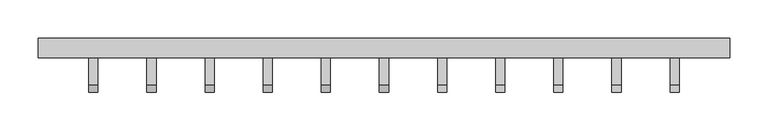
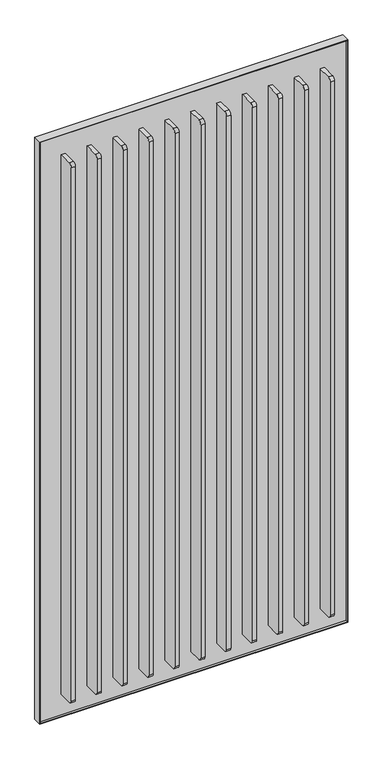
"""IFC4 building model written with IfcOpenShell, lengths in millimetres: proxy geometry, Frame_Cascade 2.3dm."""

import ifcopenshell
import ifcopenshell.guid

model = None  # the IFC model being written
_history = None  # IfcOwnerHistory: only IFC2X3 demands one
_inside = {}  # id of a spatial element -> (the spatial element, [elements in it])
_under = {}  # id of a project, library or spatial element -> (it, [spatial elements below it])
_declared = {}  # id of a project -> (the project, [libraries it declares])
_typed = {}  # id of a type object -> (the type object, [elements of that type])
_made_of = {}  # id of a material, layer set ... -> (it, [elements and type objects made of it])


def new_model(schema):
    """Start an empty IFC model of exactly this schema.

    Asked for "IFC4X3", IfcOpenShell would pick the latest addendum, in which some entities
    have other attributes; the version numbers below select the first issue.
    IFC2X3 requires an IfcOwnerHistory on every rooted entity: one is made here for all.
    """
    global model, _history
    if schema == "IFC4X3":
        model = ifcopenshell.file(schema_version=(4, 3, 0, 0))
    else:
        model = ifcopenshell.file(schema=schema)
    _inside.clear()
    _under.clear()
    _declared.clear()
    _typed.clear()
    _made_of.clear()
    _history = None
    if model.schema == "IFC2X3":
        org = make("IfcOrganization", Name="unknown")
        user = make(
            "IfcPersonAndOrganization",
            ThePerson=make("IfcPerson", FamilyName="unknown"),
            TheOrganization=org,
        )
        app = make(
            "IfcApplication",
            ApplicationDeveloper=org,
            Version="unknown",
            ApplicationFullName="unknown",
            ApplicationIdentifier="unknown",
        )
        _history = make(
            "IfcOwnerHistory",
            OwningUser=user,
            OwningApplication=app,
            ChangeAction="ADDED",
            CreationDate=0,
        )
    return model


def make(cls, **values):
    """One entity of the class cls with the attributes given. An attribute that is None is left unset."""
    return model.create_entity(
        cls, **{name: value for name, value in values.items() if value is not None}
    )


def rooted(cls, **values):
    """An entity with a GlobalId (a new one), such as an element, a storey or a relation."""
    return make(cls, GlobalId=ifcopenshell.guid.new(), OwnerHistory=_history, **values)


def si_unit(unit_type, name, prefix=None):
    """IfcSIUnit, for example si_unit("LENGTHUNIT", "METRE", prefix="MILLI")."""
    return make("IfcSIUnit", UnitType=unit_type, Prefix=prefix, Name=name)


def assignment(units):
    """IfcUnitAssignment: the units of a project."""
    return None if units is None else make("IfcUnitAssignment", Units=units)


def point(xyz):
    """IfcCartesianPoint."""
    return None if xyz is None else make("IfcCartesianPoint", Coordinates=xyz)


def direction(xyz):
    """IfcDirection."""
    return None if xyz is None else make("IfcDirection", DirectionRatios=xyz)


def frame(location, z_axis=None, x_axis=None):
    """IfcAxis2Placement3D, a coordinate frame: its origin and axes. An axis left out is left unset."""
    return make(
        "IfcAxis2Placement3D",
        Location=point(location),
        Axis=direction(z_axis),
        RefDirection=direction(x_axis),
    )


def frame_2d(location, x_axis=None):
    """IfcAxis2Placement2D, a coordinate frame in the plane: its origin and x axis."""
    return make(
        "IfcAxis2Placement2D", Location=point(location), RefDirection=direction(x_axis)
    )


def origin():
    """The frame at (0, 0, 0) with its axes left unset."""
    return frame((0.0, 0.0, 0.0))


def place(relative_to, where):
    """IfcLocalPlacement: puts the frame where relative to a parent placement (None: the world)."""
    return make(
        "IfcLocalPlacement", PlacementRelTo=relative_to, RelativePlacement=where
    )


def context(
    kind, dimensions, precision=None, world=None, true_north=None, identifier=None
):
    """IfcGeometricRepresentationContext, for example the 3D "Model" context."""
    return make(
        "IfcGeometricRepresentationContext",
        ContextIdentifier=identifier,
        ContextType=kind,
        CoordinateSpaceDimension=dimensions,
        Precision=precision,
        WorldCoordinateSystem=world,
        TrueNorth=true_north,
    )


def project(units=None, contexts=None):
    """IfcProject with its units and contexts."""
    return rooted(
        "IfcProject",
        Name="project",
        RepresentationContexts=contexts,
        UnitsInContext=assignment(units),
    )


def spatial(cls, under=None, at=None, **own):
    """A site, building, storey or space (cls), placed at a placement, below another one or the project."""
    s = rooted(cls, ObjectPlacement=at, **own)
    if under is not None:
        _under.setdefault(under.id(), (under, []))[1].append(s)
    return s


def polyline(points):
    """IfcPolyline through the points."""
    return make("IfcPolyline", Points=[point(p) for p in points])


def circle_curve(where, radius):
    """IfcCircle in the frame where."""
    return make("IfcCircle", Position=where, Radius=radius)


def trimmed(basis, trim1, trim2, sense, master):
    """IfcTrimmedCurve: the piece of a basis curve between two trims."""
    return make(
        "IfcTrimmedCurve",
        BasisCurve=basis,
        Trim1=trim1,
        Trim2=trim2,
        SenseAgreement=sense,
        MasterRepresentation=master,
    )


def segment(curve, same_sense, transition):
    """IfcCompositeCurveSegment."""
    return make(
        "IfcCompositeCurveSegment",
        Transition=transition,
        SameSense=same_sense,
        ParentCurve=curve,
    )


def composite_curve(segments, self_intersect=None):
    """IfcCompositeCurve: segments joined end to end."""
    return make("IfcCompositeCurve", Segments=segments, SelfIntersect=self_intersect)


def outline(outer, holes=None, kind="AREA"):
    """IfcArbitraryClosedProfileDef: a profile drawn as a closed curve; with holes, ...WithVoids."""
    if holes is None:
        return make("IfcArbitraryClosedProfileDef", ProfileType=kind, OuterCurve=outer)
    return make(
        "IfcArbitraryProfileDefWithVoids",
        ProfileType=kind,
        OuterCurve=outer,
        InnerCurves=holes,
    )


def extrude(swept, where, along, depth):
    """IfcExtrudedAreaSolid: the profile swept, set in the frame where, extruded along a direction by depth."""
    return make(
        "IfcExtrudedAreaSolid",
        SweptArea=swept,
        Position=where,
        ExtrudedDirection=direction(along),
        Depth=depth,
    )


def shape(context_of_items, identifier, shape_type, items):
    """IfcShapeRepresentation: the items that make up one representation, for example the "Body"."""
    return make(
        "IfcShapeRepresentation",
        ContextOfItems=context_of_items,
        RepresentationIdentifier=identifier,
        RepresentationType=shape_type,
        Items=items,
    )


def source(mapping_origin, context_of_items, identifier, shape_type, items):
    """IfcRepresentationMap: a shape defined once, which mapped items show again and again."""
    return make(
        "IfcRepresentationMap",
        MappingOrigin=mapping_origin,
        MappedRepresentation=shape(context_of_items, identifier, shape_type, items),
    )


def transform(
    local_origin,
    x_axis=None,
    y_axis=None,
    z_axis=None,
    scale=None,
    scale2=None,
    scale3=None,
    uniform=True,
):
    """IfcCartesianTransformationOperator3D, or its non-uniform kind. x_axis, y_axis, z_axis: its Axis1, 2, 3."""
    if uniform:
        return make(
            "IfcCartesianTransformationOperator3D",
            Axis1=direction(x_axis),
            Axis2=direction(y_axis),
            LocalOrigin=point(local_origin),
            Scale=scale,
            Axis3=direction(z_axis),
        )
    return make(
        "IfcCartesianTransformationOperator3DnonUniform",
        Axis1=direction(x_axis),
        Axis2=direction(y_axis),
        LocalOrigin=point(local_origin),
        Scale=scale,
        Axis3=direction(z_axis),
        Scale2=scale2,
        Scale3=scale3,
    )


def mapped(mapping_source, mapping_target):
    """IfcMappedItem: shows the shape of a source again, moved by a transform."""
    return make(
        "IfcMappedItem", MappingSource=mapping_source, MappingTarget=mapping_target
    )


def made_of(thing, what):
    """Note that an element or type object is made of a material, layer set ...; save() writes the relation."""
    if what is not None:
        _made_of.setdefault(what.id(), (what, []))[1].append(thing)
    return thing


def element(
    cls,
    number,
    at=None,
    inside=None,
    cuts=None,
    type_object=None,
    material=None,
    context=None,
    identifier="Body",
    shape_type=None,
    held_by="IfcProductDefinitionShape",
    body=None,
    shapes=None,
    **own,
):
    """One element of the class cls, such as IfcWall. Its Tag is "e" and its number.

    at: its placement. inside: the storey or other place that contains it. cuts: it is an
    opening in that element (IfcRelVoidsElement). A single representation is given by context,
    identifier, shape_type and body (its items); several are given by shapes. held_by: the class
    of the entity that holds the representations. save() writes the other relations.
    """
    e = rooted(cls, Tag="e%d" % number, ObjectPlacement=at, **own)
    if body is not None:
        shapes = [shape(context, identifier, shape_type, body)]
    if shapes is not None:
        e.Representation = make(held_by, Representations=shapes)
    if inside is not None:
        _inside.setdefault(inside.id(), (inside, []))[1].append(e)
    if cuts is not None:
        rooted(
            "IfcRelVoidsElement", RelatingBuildingElement=cuts, RelatedOpeningElement=e
        )
    if type_object is not None:
        _typed.setdefault(type_object.id(), (type_object, []))[1].append(e)
    return made_of(e, material)


def aggregate(whole, parts):
    """IfcRelAggregates: a whole, such as a stair, and the parts it consists of."""
    return rooted("IfcRelAggregates", RelatingObject=whole, RelatedObjects=parts)


def save(model, path):
    """Write the relations noted so far, then the file.

    IfcRelAggregates (storeys below a building ...), IfcRelContainedInSpatialStructure (elements
    in a storey), IfcRelDefinesByType, IfcRelAssociatesMaterial and IfcRelDeclares: one each for
    every whole, place, type object, material and project.
    """
    for whole, parts in _under.values():
        aggregate(whole, parts)
    for where, things in _inside.values():
        rooted(
            "IfcRelContainedInSpatialStructure",
            RelatedElements=things,
            RelatingStructure=where,
        )
    for kind, things in _typed.values():
        rooted("IfcRelDefinesByType", RelatedObjects=things, RelatingType=kind)
    for what, things in _made_of.values():
        rooted("IfcRelAssociatesMaterial", RelatedObjects=things, RelatingMaterial=what)
    for by, libraries in _declared.values():
        rooted("IfcRelDeclares", RelatingContext=by, RelatedDefinitions=libraries)
    model.write(path)


def generic_models_e5c5eccd(model_context):
    return source(origin(), model_context, "Body", "SweptSolid", [
        extrude(outline(polyline([(8883.2241229, 114.2568681), (7983.2241229, 114.2568681), (7983.2241229, 126.2568681), (8883.2241229, 126.2568681), (8883.2241229, 114.2568681)])), frame((0.0, 0.0, 28.040642), z_axis=(0.0, 0.0, 1.0), x_axis=(1.0, 0.0, 0.0)), (0.0, 0.0, 1.0), 1800.0),
        extrude(outline(polyline([(26.040642, 7981.2241229), (26.040642, 8885.2241229), (1830.040642, 8885.2241229), (1830.040642, 7981.2241229), (26.040642, 7981.2241229)]), holes=[polyline([(28.040642, 7983.2241229), (1828.040642, 7983.2241229), (1828.040642, 8883.2241229), (28.040642, 8883.2241229), (28.040642, 7983.2241229)])]), frame((0.0, 107.5568681, 0.0), z_axis=(0.0, 1.0, 0.0), x_axis=(0.0, 0.0, 1.0)), (0.0, 0.0, 1.0), 25.4),
        extrude(outline(composite_curve([segment(polyline([(114.2568681, 1764.040642), (114.2568681, 92.040642), (72.2568681, 92.040642)]), True, "CONTINUOUS"), segment(trimmed(circle_curve(frame_2d((72.2568681, 102.040642)), 10.0), [point((72.2568681, 92.040642))], [point((62.2568681, 102.040642))], False, "CARTESIAN"), True, "CONTINUOUS"), segment(polyline([(62.2568681, 102.040642), (62.2568681, 1754.040642)]), True, "CONTINUOUS"), segment(trimmed(circle_curve(frame_2d((72.2568681, 1754.040642)), 10.0), [point((62.2568681, 1754.040642))], [point((72.2568681, 1764.040642))], False, "CARTESIAN"), True, "CONTINUOUS"), segment(polyline([(72.2568681, 1764.040642), (114.2568681, 1764.040642)]), True, "CONTINUOUS")], self_intersect=False)), frame((8731.2241229, 0.0, 0.0), z_axis=(1.0, 0.0, 0.0), x_axis=(0.0, 1.0, 0.0)), (0.0, 0.0, 1.0), 12.0),
        extrude(outline(composite_curve([segment(polyline([(114.2568681, 1764.040642), (114.2568681, 92.040642), (72.2568681, 92.040642)]), True, "CONTINUOUS"), segment(trimmed(circle_curve(frame_2d((72.2568681, 102.040642)), 10.0), [point((72.2568681, 92.040642))], [point((62.2568681, 102.040642))], False, "CARTESIAN"), True, "CONTINUOUS"), segment(polyline([(62.2568681, 102.040642), (62.2568681, 1754.040642)]), True, "CONTINUOUS"), segment(trimmed(circle_curve(frame_2d((72.2568681, 1754.040642)), 10.0), [point((62.2568681, 1754.040642))], [point((72.2568681, 1764.040642))], False, "CARTESIAN"), True, "CONTINUOUS"), segment(polyline([(72.2568681, 1764.040642), (114.2568681, 1764.040642)]), True, "CONTINUOUS")], self_intersect=False)), frame((8579.2241229, 0.0, 0.0), z_axis=(1.0, 0.0, 0.0), x_axis=(0.0, 1.0, 0.0)), (0.0, 0.0, 1.0), 12.0),
        extrude(outline(composite_curve([segment(polyline([(114.2568681, 92.040642), (72.2568681, 92.040642)]), True, "CONTINUOUS"), segment(trimmed(circle_curve(frame_2d((72.2568681, 102.040642)), 10.0), [point((72.2568681, 92.040642))], [point((62.2568681, 102.040642))], False, "CARTESIAN"), True, "CONTINUOUS"), segment(polyline([(62.2568681, 102.040642), (62.2568681, 1754.040642)]), True, "CONTINUOUS"), segment(trimmed(circle_curve(frame_2d((72.2568681, 1754.040642)), 10.0), [point((62.2568681, 1754.040642))], [point((72.2568681, 1764.040642))], False, "CARTESIAN"), True, "CONTINUOUS"), segment(polyline([(72.2568681, 1764.040642), (114.2568681, 1764.040642), (114.2568681, 92.040642)]), True, "CONTINUOUS")], self_intersect=False)), frame((8427.2241229, 0.0, 0.0), z_axis=(1.0, 0.0, 0.0), x_axis=(0.0, 1.0, 0.0)), (0.0, 0.0, 1.0), 12.0),
        extrude(outline(composite_curve([segment(polyline([(114.2568681, 1764.040642), (114.2568681, 92.040642), (72.2568681, 92.040642)]), True, "CONTINUOUS"), segment(trimmed(circle_curve(frame_2d((72.2568681, 102.040642)), 10.0), [point((72.2568681, 92.040642))], [point((62.2568681, 102.040642))], False, "CARTESIAN"), True, "CONTINUOUS"), segment(polyline([(62.2568681, 102.040642), (62.2568681, 1754.040642)]), True, "CONTINUOUS"), segment(trimmed(circle_curve(frame_2d((72.2568681, 1754.040642)), 10.0), [point((62.2568681, 1754.040642))], [point((72.2568681, 1764.040642))], False, "CARTESIAN"), True, "CONTINUOUS"), segment(polyline([(72.2568681, 1764.040642), (114.2568681, 1764.040642)]), True, "CONTINUOUS")], self_intersect=False)), frame((8655.2241229, 0.0, 0.0), z_axis=(1.0, 0.0, 0.0), x_axis=(0.0, 1.0, 0.0)), (0.0, 0.0, 1.0), 12.0),
        extrude(outline(composite_curve([segment(polyline([(114.2568681, 1764.040642), (114.2568681, 92.040642), (72.2568681, 92.040642)]), True, "CONTINUOUS"), segment(trimmed(circle_curve(frame_2d((72.2568681, 102.040642)), 10.0), [point((72.2568681, 92.040642))], [point((62.2568681, 102.040642))], False, "CARTESIAN"), True, "CONTINUOUS"), segment(polyline([(62.2568681, 102.040642), (62.2568681, 1754.040642)]), True, "CONTINUOUS"), segment(trimmed(circle_curve(frame_2d((72.2568681, 1754.040642)), 10.0), [point((62.2568681, 1754.040642))], [point((72.2568681, 1764.040642))], False, "CARTESIAN"), True, "CONTINUOUS"), segment(polyline([(72.2568681, 1764.040642), (114.2568681, 1764.040642)]), True, "CONTINUOUS")], self_intersect=False)), frame((8503.2241229, 0.0, 0.0), z_axis=(1.0, 0.0, 0.0), x_axis=(0.0, 1.0, 0.0)), (0.0, 0.0, 1.0), 12.0),
        extrude(outline(composite_curve([segment(polyline([(114.2568681, 92.040642), (72.2568681, 92.040642)]), True, "CONTINUOUS"), segment(trimmed(circle_curve(frame_2d((72.2568681, 102.040642)), 10.0), [point((72.2568681, 92.040642))], [point((62.2568681, 102.040642))], False, "CARTESIAN"), True, "CONTINUOUS"), segment(polyline([(62.2568681, 102.040642), (62.2568681, 1754.040642)]), True, "CONTINUOUS"), segment(trimmed(circle_curve(frame_2d((72.2568681, 1754.040642)), 10.0), [point((62.2568681, 1754.040642))], [point((72.2568681, 1764.040642))], False, "CARTESIAN"), True, "CONTINUOUS"), segment(polyline([(72.2568681, 1764.040642), (114.2568681, 1764.040642), (114.2568681, 92.040642)]), True, "CONTINUOUS")], self_intersect=False)), frame((8351.2241229, 0.0, 0.0), z_axis=(1.0, 0.0, 0.0), x_axis=(0.0, 1.0, 0.0)), (0.0, 0.0, 1.0), 12.0),
        extrude(outline(composite_curve([segment(polyline([(114.2568681, 92.040642), (72.2568681, 92.040642)]), True, "CONTINUOUS"), segment(trimmed(circle_curve(frame_2d((72.2568681, 102.040642)), 10.0), [point((72.2568681, 92.040642))], [point((62.2568681, 102.040642))], False, "CARTESIAN"), True, "CONTINUOUS"), segment(polyline([(62.2568681, 102.040642), (62.2568681, 1754.040642)]), True, "CONTINUOUS"), segment(trimmed(circle_curve(frame_2d((72.2568681, 1754.040642)), 10.0), [point((62.2568681, 1754.040642))], [point((72.2568681, 1764.040642))], False, "CARTESIAN"), True, "CONTINUOUS"), segment(polyline([(72.2568681, 1764.040642), (114.2568681, 1764.040642), (114.2568681, 92.040642)]), True, "CONTINUOUS")], self_intersect=False)), frame((8199.2241229, 0.0, 0.0), z_axis=(1.0, 0.0, 0.0), x_axis=(0.0, 1.0, 0.0)), (0.0, 0.0, 1.0), 12.0),
        extrude(outline(composite_curve([segment(polyline([(114.2568681, 1764.040642), (114.2568681, 92.040642), (72.2568681, 92.040642)]), True, "CONTINUOUS"), segment(trimmed(circle_curve(frame_2d((72.2568681, 102.040642)), 10.0), [point((72.2568681, 92.040642))], [point((62.2568681, 102.040642))], False, "CARTESIAN"), True, "CONTINUOUS"), segment(polyline([(62.2568681, 102.040642), (62.2568681, 1754.040642)]), True, "CONTINUOUS"), segment(trimmed(circle_curve(frame_2d((72.2568681, 1754.040642)), 10.0), [point((62.2568681, 1754.040642))], [point((72.2568681, 1764.040642))], False, "CARTESIAN"), True, "CONTINUOUS"), segment(polyline([(72.2568681, 1764.040642), (114.2568681, 1764.040642)]), True, "CONTINUOUS")], self_intersect=False)), frame((8807.2241229, 0.0, 0.0), z_axis=(1.0, 0.0, 0.0), x_axis=(0.0, 1.0, 0.0)), (0.0, 0.0, 1.0), 12.0),
        extrude(outline(composite_curve([segment(polyline([(114.2568681, 92.040642), (72.2568681, 92.040642)]), True, "CONTINUOUS"), segment(trimmed(circle_curve(frame_2d((72.2568681, 102.040642)), 10.0), [point((72.2568681, 92.040642))], [point((62.2568681, 102.040642))], False, "CARTESIAN"), True, "CONTINUOUS"), segment(polyline([(62.2568681, 102.040642), (62.2568681, 1754.040642)]), True, "CONTINUOUS"), segment(trimmed(circle_curve(frame_2d((72.2568681, 1754.040642)), 10.0), [point((62.2568681, 1754.040642))], [point((72.2568681, 1764.040642))], False, "CARTESIAN"), True, "CONTINUOUS"), segment(polyline([(72.2568681, 1764.040642), (114.2568681, 1764.040642), (114.2568681, 92.040642)]), True, "CONTINUOUS")], self_intersect=False)), frame((8123.2241229, 0.0, 0.0), z_axis=(1.0, 0.0, 0.0), x_axis=(0.0, 1.0, 0.0)), (0.0, 0.0, 1.0), 12.0),
        extrude(outline(composite_curve([segment(polyline([(114.2568681, 92.040642), (72.2568681, 92.040642)]), True, "CONTINUOUS"), segment(trimmed(circle_curve(frame_2d((72.2568681, 102.040642)), 10.0), [point((72.2568681, 92.040642))], [point((62.2568681, 102.040642))], False, "CARTESIAN"), True, "CONTINUOUS"), segment(polyline([(62.2568681, 102.040642), (62.2568681, 1754.040642)]), True, "CONTINUOUS"), segment(trimmed(circle_curve(frame_2d((72.2568681, 1754.040642)), 10.0), [point((62.2568681, 1754.040642))], [point((72.2568681, 1764.040642))], False, "CARTESIAN"), True, "CONTINUOUS"), segment(polyline([(72.2568681, 1764.040642), (114.2568681, 1764.040642), (114.2568681, 92.040642)]), True, "CONTINUOUS")], self_intersect=False)), frame((8047.2241229, 0.0, 0.0), z_axis=(1.0, 0.0, 0.0), x_axis=(0.0, 1.0, 0.0)), (0.0, 0.0, 1.0), 12.0),
        extrude(outline(composite_curve([segment(polyline([(114.2568681, 92.040642), (72.2568681, 92.040642)]), True, "CONTINUOUS"), segment(trimmed(circle_curve(frame_2d((72.2568681, 102.040642)), 10.0), [point((72.2568681, 92.040642))], [point((62.2568681, 102.040642))], False, "CARTESIAN"), True, "CONTINUOUS"), segment(polyline([(62.2568681, 102.040642), (62.2568681, 1754.040642)]), True, "CONTINUOUS"), segment(trimmed(circle_curve(frame_2d((72.2568681, 1754.040642)), 10.0), [point((62.2568681, 1754.040642))], [point((72.2568681, 1764.040642))], False, "CARTESIAN"), True, "CONTINUOUS"), segment(polyline([(72.2568681, 1764.040642), (114.2568681, 1764.040642), (114.2568681, 92.040642)]), True, "CONTINUOUS")], self_intersect=False)), frame((8275.2241229, 0.0, 0.0), z_axis=(1.0, 0.0, 0.0), x_axis=(0.0, 1.0, 0.0)), (0.0, 0.0, 1.0), 12.0),
    ])


if __name__ == "__main__":
    model = new_model("IFC4")
    model_context = context("Model", 3, world=origin())
    ifc_project = project(units=[si_unit("LENGTHUNIT", "METRE", prefix="MILLI")], contexts=[model_context])
    site = spatial("IfcSite", under=ifc_project)
    building = spatial("IfcBuilding", under=site)
    placement = place(None, origin())
    generic_models_shape = generic_models_e5c5eccd(model_context)
    element("IfcBuildingElementProxy", 1, Name="Frame_Cascade 2.3dm", ObjectType="Frame_Cascade 2.3dm", at=placement, inside=building, context=model_context, shape_type="MappedRepresentation", body=[
        mapped(generic_models_shape, transform((0.0, 0.0, 0.0), x_axis=(1.0, 0.0, 0.0), y_axis=(0.0, 1.0, 0.0), z_axis=(0.0, 0.0, 1.0))),
    ])
    save(model, "model.ifc")
